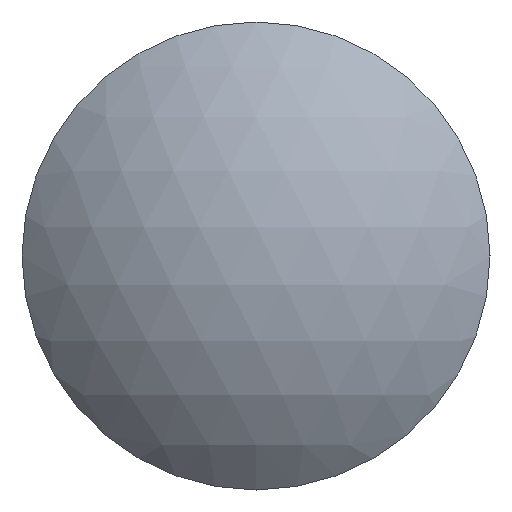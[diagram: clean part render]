
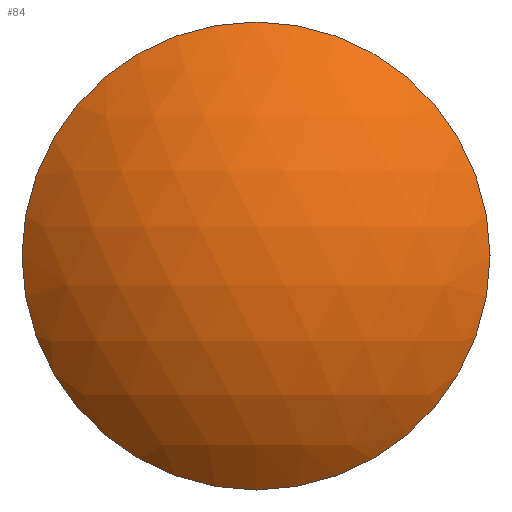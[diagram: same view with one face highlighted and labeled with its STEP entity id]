
A CAD part, front view. The second image highlights one B-rep face of the part: STEP entity #84.
In plain terms, the highlighted spherical face has radius 18.17 mm.
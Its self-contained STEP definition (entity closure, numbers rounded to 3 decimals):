
#68=CARTESIAN_POINT('',(0.0,11.17,0.0));
#69=DIRECTION('',(0.0,0.0,1.0));
#70=DIRECTION('',(1.0,0.0,0.0));
#71=AXIS2_PLACEMENT_3D('',#68,#69,#70);
#72=SPHERICAL_SURFACE('',#71,18.17);
#73=CARTESIAN_POINT('',(-12.5,-2.017,0.0));
#74=VERTEX_POINT('',#73);
#75=CARTESIAN_POINT('',(0.0,-2.017,0.0));
#76=DIRECTION('',(0.0,1.0,0.0));
#77=DIRECTION('',(-1.0,0.0,0.0));
#78=AXIS2_PLACEMENT_3D('',#75,#76,#77);
#79=CIRCLE('',#78,12.5);
#80=EDGE_CURVE('',#74,#74,#79,.T.);
#81=ORIENTED_EDGE('',*,*,#80,.F.);
#82=EDGE_LOOP('',(#81));
#83=FACE_OUTER_BOUND('',#82,.T.);
#84=ADVANCED_FACE('',(#83),#72,.T.);
